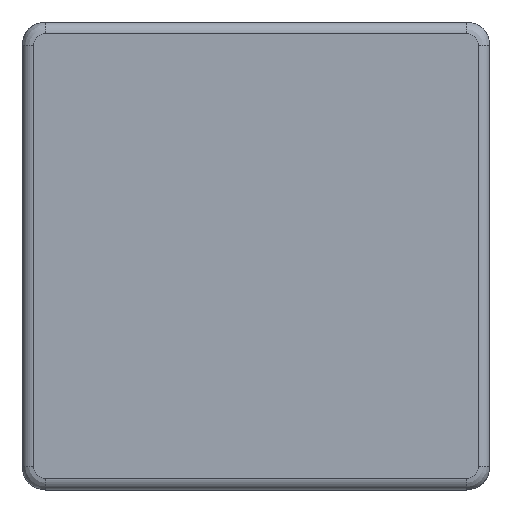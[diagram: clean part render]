
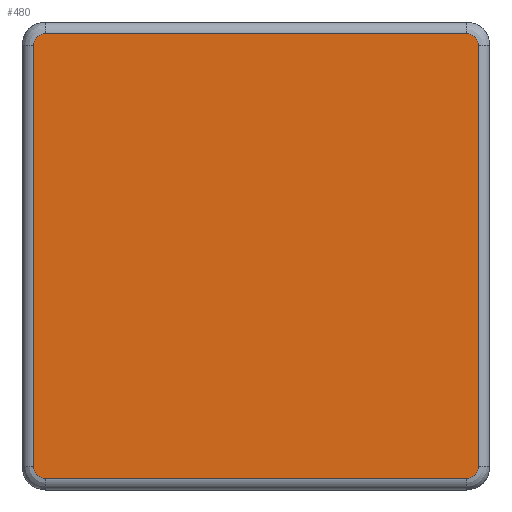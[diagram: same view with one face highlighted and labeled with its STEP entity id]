
A CAD part, left-side view. The second image highlights one B-rep face of the part: STEP entity #480.
In plain terms, the highlighted planar face has unit normal (-1, 0, 0).
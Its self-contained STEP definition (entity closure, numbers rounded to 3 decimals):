
#32=PLANE('',#559);
#55=LINE('',#884,#83);
#57=LINE('',#888,#85);
#58=LINE('',#889,#86);
#59=LINE('',#890,#87);
#83=VECTOR('',#702,10.);
#85=VECTOR('',#708,10.);
#86=VECTOR('',#709,10.);
#87=VECTOR('',#710,10.);
#131=FACE_OUTER_BOUND('',#165,.T.);
#165=EDGE_LOOP('',(#408,#409,#410,#411,#412,#413,#414,#415));
#187=CIRCLE('',#517,0.5);
#191=CIRCLE('',#521,0.5);
#195=CIRCLE('',#525,0.5);
#199=CIRCLE('',#529,0.5);
#222=VERTEX_POINT('',#766);
#225=VERTEX_POINT('',#771);
#226=VERTEX_POINT('',#783);
#229=VERTEX_POINT('',#788);
#230=VERTEX_POINT('',#800);
#233=VERTEX_POINT('',#805);
#234=VERTEX_POINT('',#817);
#237=VERTEX_POINT('',#822);
#265=EDGE_CURVE('',#225,#222,#187,.T.);
#269=EDGE_CURVE('',#229,#226,#191,.T.);
#273=EDGE_CURVE('',#233,#230,#195,.T.);
#277=EDGE_CURVE('',#237,#234,#199,.T.);
#309=EDGE_CURVE('',#226,#225,#55,.T.);
#311=EDGE_CURVE('',#234,#229,#57,.T.);
#312=EDGE_CURVE('',#230,#237,#58,.T.);
#313=EDGE_CURVE('',#222,#233,#59,.T.);
#408=ORIENTED_EDGE('',*,*,#265,.F.);
#409=ORIENTED_EDGE('',*,*,#309,.F.);
#410=ORIENTED_EDGE('',*,*,#269,.F.);
#411=ORIENTED_EDGE('',*,*,#311,.F.);
#412=ORIENTED_EDGE('',*,*,#277,.F.);
#413=ORIENTED_EDGE('',*,*,#312,.F.);
#414=ORIENTED_EDGE('',*,*,#273,.F.);
#415=ORIENTED_EDGE('',*,*,#313,.F.);
#480=ADVANCED_FACE('',(#131),#32,.F.);
#517=AXIS2_PLACEMENT_3D('',#773,#603,#604);
#521=AXIS2_PLACEMENT_3D('',#790,#611,#612);
#525=AXIS2_PLACEMENT_3D('',#807,#619,#620);
#529=AXIS2_PLACEMENT_3D('',#824,#627,#628);
#559=AXIS2_PLACEMENT_3D('',#887,#706,#707);
#603=DIRECTION('center_axis',(1.,0.,0.));
#604=DIRECTION('ref_axis',(0.,-0.707,-0.707));
#611=DIRECTION('center_axis',(1.,0.,0.));
#612=DIRECTION('ref_axis',(0.,-0.707,0.707));
#619=DIRECTION('center_axis',(1.,0.,0.));
#620=DIRECTION('ref_axis',(0.,0.707,-0.707));
#627=DIRECTION('center_axis',(1.,0.,0.));
#628=DIRECTION('ref_axis',(0.,0.707,0.707));
#702=DIRECTION('',(0.,0.,-1.));
#706=DIRECTION('center_axis',(1.,0.,0.));
#707=DIRECTION('ref_axis',(0.,1.,0.));
#708=DIRECTION('',(0.,-1.,0.));
#709=DIRECTION('',(0.,0.,1.));
#710=DIRECTION('',(0.,1.,0.));
#766=CARTESIAN_POINT('',(0.,-9.,-9.5));
#771=CARTESIAN_POINT('',(0.,-9.5,-9.));
#773=CARTESIAN_POINT('Origin',(0.,-9.,-9.));
#783=CARTESIAN_POINT('',(0.,-9.5,9.));
#788=CARTESIAN_POINT('',(0.,-9.,9.5));
#790=CARTESIAN_POINT('Origin',(0.,-9.,9.));
#800=CARTESIAN_POINT('',(0.,9.5,-9.));
#805=CARTESIAN_POINT('',(0.,9.,-9.5));
#807=CARTESIAN_POINT('Origin',(0.,9.,-9.));
#817=CARTESIAN_POINT('',(0.,9.,9.5));
#822=CARTESIAN_POINT('',(0.,9.5,9.));
#824=CARTESIAN_POINT('Origin',(0.,9.,9.));
#884=CARTESIAN_POINT('',(0.,-9.5,5.));
#887=CARTESIAN_POINT('Origin',(0.,0.,0.));
#888=CARTESIAN_POINT('',(0.,5.,9.5));
#889=CARTESIAN_POINT('',(0.,9.5,-5.));
#890=CARTESIAN_POINT('',(0.,-5.,-9.5));
